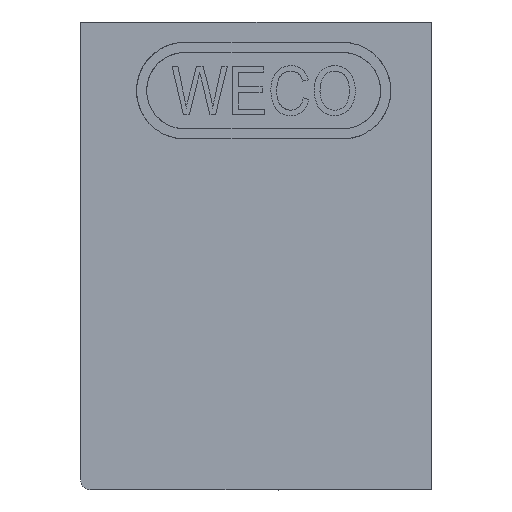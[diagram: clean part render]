
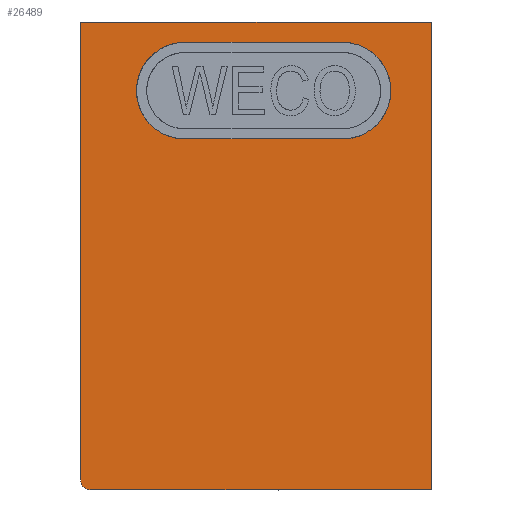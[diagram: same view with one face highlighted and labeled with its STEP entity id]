
A CAD part, left-side view. The second image highlights one B-rep face of the part: STEP entity #26489.
In plain terms, the highlighted planar face has unit normal (-1, 0, 0).
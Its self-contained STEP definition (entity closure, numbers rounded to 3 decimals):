
#188 = EDGE_CURVE ( 'NONE', #37653, #781, #36571, .T. ) ;
#225 = DIRECTION ( 'NONE',  ( 0., 0., 1. ) ) ;
#518 = ORIENTED_EDGE ( 'NONE', *, *, #33858, .T. ) ;
#781 = VERTEX_POINT ( 'NONE', #18542 ) ;
#1866 = ORIENTED_EDGE ( 'NONE', *, *, #188, .F. ) ;
#3343 = CIRCLE ( 'NONE', #41188, 0.2 ) ;
#3872 = VERTEX_POINT ( 'NONE', #24470 ) ;
#4348 =( BOUNDED_CURVE ( )  B_SPLINE_CURVE ( 3, ( #40840, #19814, #41141, #37146 ),
 .UNSPECIFIED., .F., .F. ) 
 B_SPLINE_CURVE_WITH_KNOTS ( ( 4, 4 ),
 ( 3.142, 6.283 ),
 .UNSPECIFIED. ) 
 CURVE ( )  GEOMETRIC_REPRESENTATION_ITEM ( )  RATIONAL_B_SPLINE_CURVE ( ( 1., 0.333, 0.333, 1. ) ) 
 REPRESENTATION_ITEM ( '' )  );
#5572 = EDGE_LOOP ( 'NONE', ( #1866, #518, #24670, #20028, #43626 ) ) ;
#6450 = EDGE_LOOP ( 'NONE', ( #7142, #18982, #23852, #35309 ) ) ;
#7142 = ORIENTED_EDGE ( 'NONE', *, *, #33164, .T. ) ;
#7374 = DIRECTION ( 'NONE',  ( -1., 0., 0. ) ) ;
#7985 = CARTESIAN_POINT ( 'NONE',  ( -0.7, 0., 6.9 ) ) ;
#8771 = LINE ( 'NONE', #7985, #13171 ) ;
#9139 = CARTESIAN_POINT ( 'NONE',  ( -0.7, 1.75, 8.8 ) ) ;
#9898 = VERTEX_POINT ( 'NONE', #29977 ) ;
#10538 = LINE ( 'NONE', #42742, #19823 ) ;
#10670 = VERTEX_POINT ( 'NONE', #44934 ) ;
#13171 = VECTOR ( 'NONE', #14849, 1000. ) ;
#13265 = CARTESIAN_POINT ( 'NONE',  ( -0.7, 0., 8.8 ) ) ;
#14452 = DIRECTION ( 'NONE',  ( 0., -1., 0. ) ) ;
#14530 = CARTESIAN_POINT ( 'NONE',  ( -0.7, 6.9, 0. ) ) ;
#14757 = CARTESIAN_POINT ( 'NONE',  ( -0.7, 6.75, 8.8 ) ) ;
#14849 = DIRECTION ( 'NONE',  ( 0., 1., 0. ) ) ;
#15061 = CARTESIAN_POINT ( 'NONE',  ( -0.7, 6.75, 6.9 ) ) ;
#15316 = EDGE_CURVE ( 'NONE', #9898, #10670, #10538, .T. ) ;
#15441 = DIRECTION ( 'NONE',  ( 0., -1., 0. ) ) ;
#17927 = VECTOR ( 'NONE', #15441, 1000. ) ;
#18542 = CARTESIAN_POINT ( 'NONE',  ( -0.7, 0., 9.2 ) ) ;
#18803 = EDGE_CURVE ( 'NONE', #32808, #3872, #41184, .T. ) ;
#18982 = ORIENTED_EDGE ( 'NONE', *, *, #36624, .T. ) ;
#19814 = CARTESIAN_POINT ( 'NONE',  ( -0.7, -0.15, 8.8 ) ) ;
#19823 = VECTOR ( 'NONE', #35235, 1000. ) ;
#19893 = VERTEX_POINT ( 'NONE', #22170 ) ;
#20028 = ORIENTED_EDGE ( 'NONE', *, *, #15316, .T. ) ;
#20437 = DIRECTION ( 'NONE',  ( 0., 0., 1. ) ) ;
#20791 = VECTOR ( 'NONE', #14452, 1000. ) ;
#21021 = VECTOR ( 'NONE', #34911, 1000. ) ;
#21572 = CARTESIAN_POINT ( 'NONE',  ( -0.7, 0., 9.2 ) ) ;
#22170 = CARTESIAN_POINT ( 'NONE',  ( -0.7, 1.75, 6.9 ) ) ;
#23852 = ORIENTED_EDGE ( 'NONE', *, *, #18803, .T. ) ;
#24112 = LINE ( 'NONE', #14530, #35627 ) ;
#24470 = CARTESIAN_POINT ( 'NONE',  ( -0.7, 4.85, 8.8 ) ) ;
#24657 = VERTEX_POINT ( 'NONE', #32124 ) ;
#24670 = ORIENTED_EDGE ( 'NONE', *, *, #33850, .T. ) ;
#24858 = AXIS2_PLACEMENT_3D ( 'NONE', #44648, #41155, #20437 ) ;
#25646 = CARTESIAN_POINT ( 'NONE',  ( -0.7, 4.85, 6.9 ) ) ;
#26489 = ADVANCED_FACE ( 'NONE', ( #31288, #36779 ), #40556, .T. ) ;
#28356 = DIRECTION ( 'NONE',  ( 0., 0., -1. ) ) ;
#29977 = CARTESIAN_POINT ( 'NONE',  ( -0.7, 6.7, 0. ) ) ;
#30362 = LINE ( 'NONE', #41674, #21021 ) ;
#31197 = CARTESIAN_POINT ( 'NONE',  ( -0.7, 4.85, 6.9 ) ) ;
#31288 = FACE_BOUND ( 'NONE', #6450, .T. ) ;
#31539 = EDGE_CURVE ( 'NONE', #3872, #42804, #33960, .T. ) ;
#32124 = CARTESIAN_POINT ( 'NONE',  ( -0.7, 6.9, 0.2 ) ) ;
#32808 = VERTEX_POINT ( 'NONE', #31197 ) ;
#33164 = EDGE_CURVE ( 'NONE', #42804, #19893, #4348, .T. ) ;
#33850 = EDGE_CURVE ( 'NONE', #24657, #9898, #3343, .T. ) ;
#33858 = EDGE_CURVE ( 'NONE', #37653, #24657, #24112, .T. ) ;
#33960 = LINE ( 'NONE', #13265, #20791 ) ;
#34911 = DIRECTION ( 'NONE',  ( 0., 0., -1. ) ) ;
#35235 = DIRECTION ( 'NONE',  ( 0., -1., 0. ) ) ;
#35309 = ORIENTED_EDGE ( 'NONE', *, *, #31539, .T. ) ;
#35332 = EDGE_CURVE ( 'NONE', #781, #10670, #30362, .T. ) ;
#35627 = VECTOR ( 'NONE', #28356, 1000. ) ;
#36571 = LINE ( 'NONE', #21572, #17927 ) ;
#36624 = EDGE_CURVE ( 'NONE', #19893, #32808, #8771, .T. ) ;
#36779 = FACE_OUTER_BOUND ( 'NONE', #5572, .T. ) ;
#37146 = CARTESIAN_POINT ( 'NONE',  ( -0.7, 1.75, 6.9 ) ) ;
#37653 = VERTEX_POINT ( 'NONE', #44255 ) ;
#39168 = CARTESIAN_POINT ( 'NONE',  ( -0.7, 4.85, 8.8 ) ) ;
#39239 = CARTESIAN_POINT ( 'NONE',  ( -0.7, 6.7, 0.2 ) ) ;
#40556 = PLANE ( 'NONE',  #24858 ) ;
#40840 = CARTESIAN_POINT ( 'NONE',  ( -0.7, 1.75, 8.8 ) ) ;
#41141 = CARTESIAN_POINT ( 'NONE',  ( -0.7, -0.15, 6.9 ) ) ;
#41155 = DIRECTION ( 'NONE',  ( -1., 0., 0. ) ) ;
#41184 =( BOUNDED_CURVE ( )  B_SPLINE_CURVE ( 3, ( #25646, #15061, #14757, #39168 ),
 .UNSPECIFIED., .F., .F. ) 
 B_SPLINE_CURVE_WITH_KNOTS ( ( 4, 4 ),
 ( 0., 3.142 ),
 .UNSPECIFIED. ) 
 CURVE ( )  GEOMETRIC_REPRESENTATION_ITEM ( )  RATIONAL_B_SPLINE_CURVE ( ( 1., 0.333, 0.333, 1. ) ) 
 REPRESENTATION_ITEM ( '' )  );
#41188 = AXIS2_PLACEMENT_3D ( 'NONE', #39239, #7374, #225 ) ;
#41674 = CARTESIAN_POINT ( 'NONE',  ( -0.7, 0., 0. ) ) ;
#42742 = CARTESIAN_POINT ( 'NONE',  ( -0.7, 0., 0. ) ) ;
#42804 = VERTEX_POINT ( 'NONE', #9139 ) ;
#43626 = ORIENTED_EDGE ( 'NONE', *, *, #35332, .F. ) ;
#44255 = CARTESIAN_POINT ( 'NONE',  ( -0.7, 6.9, 9.2 ) ) ;
#44648 = CARTESIAN_POINT ( 'NONE',  ( -0.7, 0., 0. ) ) ;
#44934 = CARTESIAN_POINT ( 'NONE',  ( -0.7, 0., 0. ) ) ;
